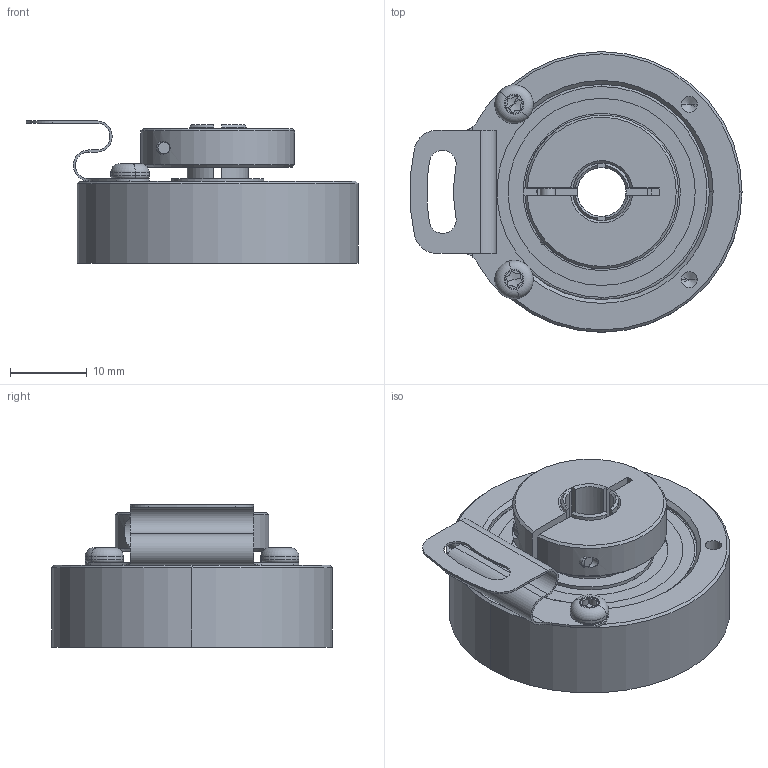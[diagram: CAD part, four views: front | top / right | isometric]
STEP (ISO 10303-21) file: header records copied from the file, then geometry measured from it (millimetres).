
FILE_DESCRIPTION (( 'STEP AP214' ), '1' );
FILE_NAME ('drawing-ucd-vrt0-q3a-n.STEP', '2017-01-27T10:09:01', ( '' ), ( '' ), 'SwSTEP 2.0', 'SolidWorks 2015', '' );
FILE_SCHEMA (( 'AUTOMOTIVE_DESIGN' ));
Length unit declared in the file: millimetre
Products named in the file (1): drawing-ucd-vrt0-q3a-n
Bounding box: 43.18 x 36.5 x 18.5 mm (x, y, z)
Volume: 10161.8 mm3; surface area: 12827 mm2
Topology: 20 solids, 20 shells, 406 faces, 1024 edges, 635 vertices
Faces by surface type: cylinder 149, plane 106, cone 71, bspline 56, torus 24
Entity records: 18859 total; most frequent: CARTESIAN_POINT 4692, DIRECTION 2026, ORIENTED_EDGE 1960, EDGE_CURVE 980, AXIS2_PLACEMENT_3D 871, VERTEX_POINT 635, CIRCLE 520, EDGE_LOOP 467
